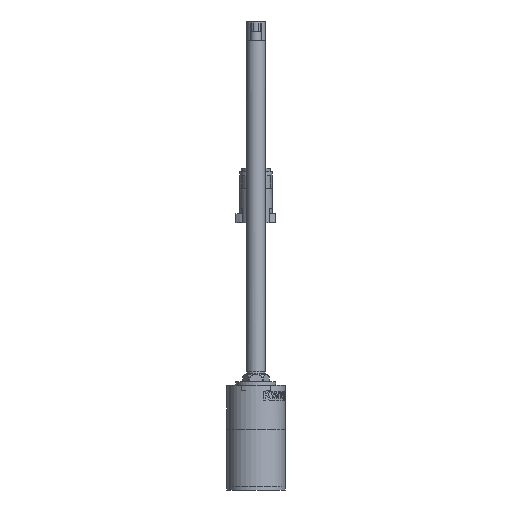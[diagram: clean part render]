
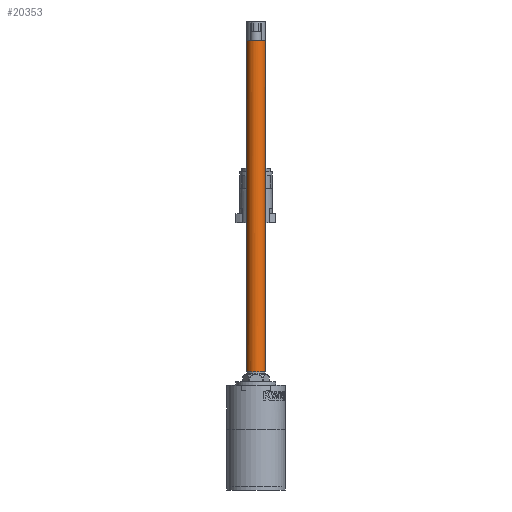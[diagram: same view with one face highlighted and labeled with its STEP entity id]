
A CAD part, left-side view. The second image highlights one B-rep face of the part: STEP entity #20353.
In plain terms, the highlighted cylindrical face has radius 5 mm (diameter 10 mm), a full revolution.
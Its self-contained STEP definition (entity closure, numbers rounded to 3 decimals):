
#11091=CYLINDRICAL_SURFACE('',#57624,5.);
#15523=CIRCLE('',#57623,5.);
#20353=ADVANCED_FACE('',(#23630,#23631),#11091,.T.);
#23630=FACE_BOUND('',#25818,.T.);
#23631=FACE_BOUND('',#25819,.T.);
#25818=EDGE_LOOP('',(#30962));
#25819=EDGE_LOOP('',(#30963));
#30962=ORIENTED_EDGE('',*,*,#46910,.T.);
#30963=ORIENTED_EDGE('',*,*,#46911,.T.);
#42290=VERTEX_POINT('',#83553);
#42291=VERTEX_POINT('',#83555);
#46910=EDGE_CURVE('',#42290,#42290,#52698,.T.);
#46911=EDGE_CURVE('',#42291,#42291,#15523,.T.);
#52698=B_SPLINE_CURVE_WITH_KNOTS('',3,(#83535,#83536,#83537,#83538,#83539,
#83540,#83541,#83542,#83543,#83544,#83545,#83546,#83547,#83548,#83549,#83550,
#83551,#83552),.UNSPECIFIED.,.T.,.F.,(2,2,2,2,2,2,2,2,2,2,2),(-0.125,0.,
0.125,0.25,0.375,0.5,0.625,0.75,0.875,1.,1.125),.UNSPECIFIED.);
#57623=AXIS2_PLACEMENT_3D('',#83554,#62163,#62164);
#57624=AXIS2_PLACEMENT_3D('',#83556,#62165,#62166);
#62163=DIRECTION('',(0.,0.,-1.));
#62164=DIRECTION('',(-1.,0.,0.));
#62165=DIRECTION('',(0.,0.,-1.));
#62166=DIRECTION('',(-1.,0.,0.));
#83535=CARTESIAN_POINT('',(-320.,1.31,65.1));
#83536=CARTESIAN_POINT('',(-320.,-1.308,65.1));
#83537=CARTESIAN_POINT('',(-319.461,-2.609,65.1));
#83538=CARTESIAN_POINT('',(-317.61,-4.461,65.1));
#83539=CARTESIAN_POINT('',(-316.31,-5.,65.1));
#83540=CARTESIAN_POINT('',(-313.692,-5.,65.1));
#83541=CARTESIAN_POINT('',(-312.391,-4.461,65.1));
#83542=CARTESIAN_POINT('',(-310.539,-2.61,65.1));
#83543=CARTESIAN_POINT('',(-310.,-1.31,65.1));
#83544=CARTESIAN_POINT('',(-310.,1.308,65.1));
#83545=CARTESIAN_POINT('',(-310.539,2.609,65.1));
#83546=CARTESIAN_POINT('',(-312.39,4.461,65.1));
#83547=CARTESIAN_POINT('',(-313.69,5.,65.1));
#83548=CARTESIAN_POINT('',(-316.308,5.,65.1));
#83549=CARTESIAN_POINT('',(-317.609,4.461,65.1));
#83550=CARTESIAN_POINT('',(-319.461,2.61,65.1));
#83551=CARTESIAN_POINT('',(-320.,1.31,65.1));
#83552=CARTESIAN_POINT('',(-320.,-1.308,65.1));
#83553=CARTESIAN_POINT('',(-320.,0.001,65.1));
#83554=CARTESIAN_POINT('',(-315.,0.,247.5));
#83555=CARTESIAN_POINT('',(-320.,0.,247.5));
#83556=CARTESIAN_POINT('',(-315.,0.,57.5));
